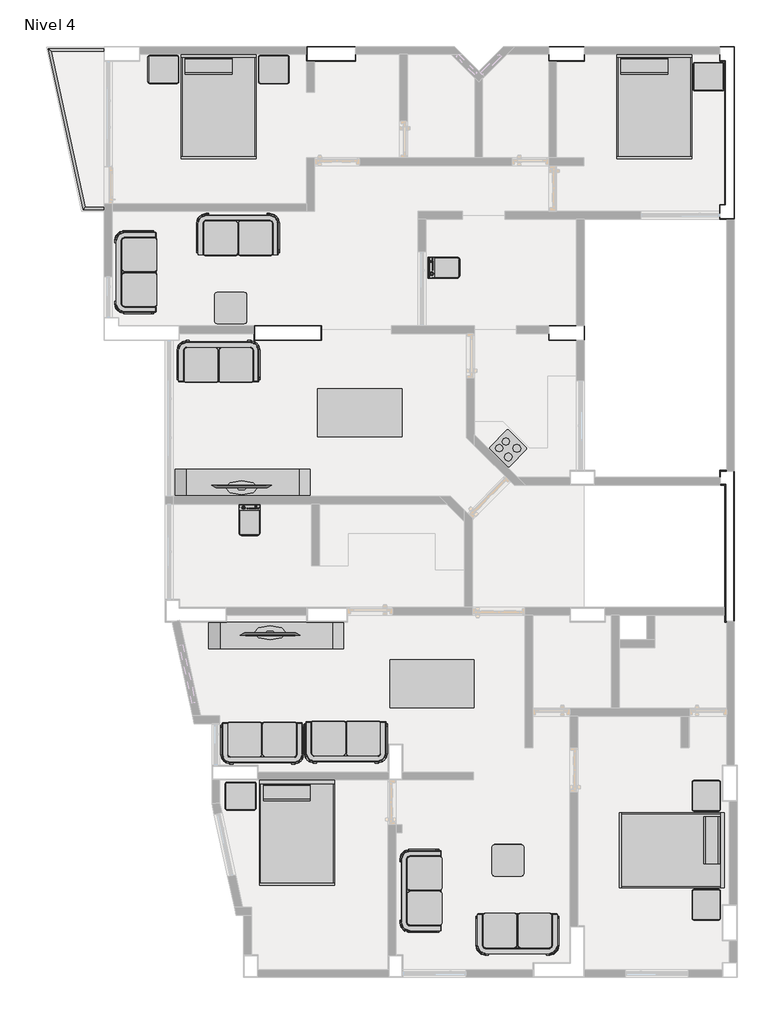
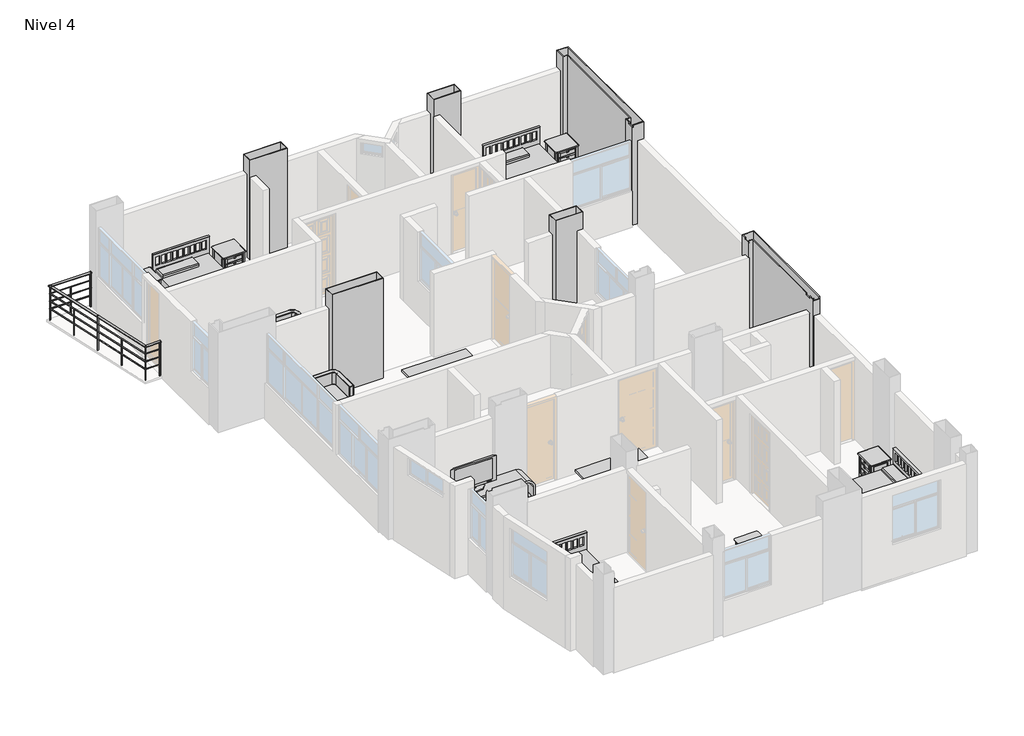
# One storey, part 4 of 4: 23 furniture elements, 6 columns, 5 proxies, 1 railing.
"""IFC4 building model written with IfcOpenShell, lengths in millimetres."""

from ifc_helpers import new_model, si_unit, point, frame, frame_2d, origin, place, context, project, spatial, circle_curve, ellipse_curve, trimmed, segment, composite_curve, outline, extrude, faceted_brep, transform, mapped, element, save
from ifc_brep_helpers import plane_surface, cylinder_surface, advanced_brep
from components import specialty_equipment_2e13d9fc, proxy_400mm_x_600mm_x_850mm_a42225af, proxy_42_inch_plasma_tv_11107_42_inch_plasma_tv_11107_394337c5, furniture_18450899, furniture_bfac4297, furniture_1422_x_1981_mm_doble_c85bece8, furniture_160_x_80_cm_madera_claro_7cd3064c, furniture_600mm_x_600mm_a769e95e, bed_side_table_9129_bed_side_table_9129_b31ec6e2, bed_side_table_9129_bed_side_table_9129_c77a05bd, tv_room_furn_4056_tv_room_furn_4056_870fe8c4

model = new_model("IFC4")

# Units and contexts
model_context = context("Model", 3, world=origin())
ifc_project = project(units=[si_unit("LENGTHUNIT", "METRE", prefix="MILLI")], contexts=[model_context])

# Site, building, storey
site = spatial("IfcSite", under=ifc_project)
building = spatial("IfcBuilding", under=site)
storey = spatial("IfcBuildingStorey", under=building, Name="Nivel 4", Elevation=8100.0)

# Proxies
placement = place(None, origin())
specialty_equipment_shape = specialty_equipment_2e13d9fc(model_context)
element("IfcBuildingElementProxy", 1, Name="Electric Hob : Electric Hob", ObjectType="Electric Hob : Electric Hob", at=placement, inside=storey, context=model_context, shape_type="MappedRepresentation", body=[
    mapped(specialty_equipment_shape, transform((5026.7577455, 10021.1807466, 8900.0), x_axis=(-0.7121213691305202, 0.7020563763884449, 0.0), y_axis=(-0.7020563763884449, -0.7121213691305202, 0.0), z_axis=(0.0, 0.0, 1.0))),
])
proxy_400mm_x_600mm_x_850mm_shape = proxy_400mm_x_600mm_x_850mm_a42225af(model_context)
element("IfcBuildingElementProxy", 2, Name="Lave linge - Chargement par le dessus : 400mm x 600mm x 850mm", ObjectType="Lave linge - Chargement par le dessus : 400mm x 600mm x 850mm", at=placement, inside=storey, context=model_context, shape_type="MappedRepresentation", body=[
    mapped(proxy_400mm_x_600mm_x_850mm_shape, transform((3933.8207986, 13503.4949484, 8100.0), x_axis=(0.0, 1.0, 0.0), y_axis=(-1.0, 0.0, 0.0), z_axis=(0.0, 0.0, 1.0))),
])
element("IfcBuildingElementProxy", 3, Name="Lave linge - Chargement par le dessus : 400mm x 600mm x 850mm", ObjectType="Lave linge - Chargement par le dessus : 400mm x 600mm x 850mm", at=placement, inside=storey, context=model_context, shape_type="MappedRepresentation", body=[
    mapped(proxy_400mm_x_600mm_x_850mm_shape, transform((138.4955292, 8536.1797822, 8100.0), x_axis=(1.0, 0.0, 0.0), y_axis=(0.0, 1.0, 0.0), z_axis=(0.0, 0.0, 1.0))),
])
proxy_42_inch_plasma_tv_11107_42_inch_plasma_tv_11107_shape = proxy_42_inch_plasma_tv_11107_42_inch_plasma_tv_11107_394337c5(model_context)
element("IfcBuildingElementProxy", 4, Name="42_inch_plasma_tv_11107 : 42_inch_plasma_tv_11107", ObjectType="42_inch_plasma_tv_11107 : 42_inch_plasma_tv_11107", at=placement, inside=storey, context=model_context, shape_type="MappedRepresentation", body=[
    mapped(proxy_42_inch_plasma_tv_11107_42_inch_plasma_tv_11107_shape, transform((-49.9994192, 9335.0, 8950.0), x_axis=(-1.0, 0.0, 0.0), y_axis=(0.0, -1.0, 0.0), z_axis=(0.0, 0.0, 1.0))),
])
element("IfcBuildingElementProxy", 5, Name="42_inch_plasma_tv_11107 : 42_inch_plasma_tv_11107", ObjectType="42_inch_plasma_tv_11107 : 42_inch_plasma_tv_11107", at=placement, inside=storey, context=model_context, shape_type="MappedRepresentation", body=[
    mapped(proxy_42_inch_plasma_tv_11107_42_inch_plasma_tv_11107_shape, transform((490.0005808, 6480.0, 8950.0), x_axis=(1.0, 0.0, 0.0), y_axis=(0.0, 1.0, 0.0), z_axis=(0.0, 0.0, 1.0))),
])

# Columns
element("IfcColumn", 6, ObjectType="Columna U Arquitectonica : Columna U Arquitectonica", at=placement, inside=storey, context=model_context, shape_type="Brep", body=[
    faceted_brep([(9035.0, 14665.0, 8100.0), (9135.0, 14665.0, 8100.0), (9135.0, 17385.0, 8100.0), (9035.0, 17385.0, 8100.0), (9035.0, 17665.0, 8100.0), (9315.0, 17665.0, 8100.0), (9315.0, 14385.0, 8100.0), (9035.0, 14385.0, 8100.0), (9050.0, 14650.0, 8100.0), (9050.0, 14400.0, 8100.0), (9300.0, 14400.0, 8100.0), (9300.0, 17650.0, 8100.0), (9050.0, 17650.0, 8100.0), (9050.0, 17400.0, 8100.0), (9150.0, 17400.0, 8100.0), (9150.0, 14650.0, 8100.0), (9150.0, 14650.0, 10750.0), (9050.0, 14650.0, 10750.0), (9150.0, 17400.0, 10750.0), (9050.0, 17400.0, 10750.0), (9050.0, 17650.0, 10750.0), (9300.0, 17650.0, 10750.0), (9300.0, 14400.0, 10750.0), (9050.0, 14400.0, 10700.0), (9050.0, 14400.0, 10750.0), (9050.0, 14535.0, 10750.0), (9050.0, 14535.0, 10700.0), (9050.0, 14385.0, 10750.0), (9315.0, 14385.0, 10750.0), (9315.0, 17665.0, 10750.0), (9035.0, 17665.0, 10750.0), (9035.0, 17385.0, 10750.0), (9135.0, 17385.0, 10750.0), (9135.0, 14665.0, 10750.0), (9035.0, 14665.0, 10750.0), (9035.0, 14535.0, 10750.0), (9035.0, 17665.0, 10700.0), (9035.0, 17665.0, 10300.0), (9315.0, 14385.0, 10300.0), (9050.0, 14385.0, 10700.0), (9035.0, 14385.0, 10700.0), (9035.0, 14385.0, 9000.0), (9035.0, 14535.0, 10700.0)], [[[0, 1, 2, 3, 4, 5, 6, 7], [8, 9, 10, 11, 12, 13, 14, 15]], [[8, 15, 16, 17]], [[15, 14, 18, 16]], [[14, 13, 19, 18]], [[13, 12, 20, 19]], [[12, 11, 21, 20]], [[11, 10, 22, 21]], [[10, 9, 23, 24, 22]], [[9, 8, 17, 25, 26, 23]], [[17, 16, 18, 19, 20, 21, 22, 24, 27, 28, 29, 30, 31, 32, 33, 34, 35, 25]], [[1, 0, 34, 33]], [[2, 1, 33, 32]], [[3, 2, 32, 31]], [[4, 3, 31, 30, 36, 37]], [[5, 4, 37, 36, 30, 29]], [[6, 5, 29, 28, 38]], [[7, 6, 38, 28, 27, 39, 40, 41]], [[0, 7, 41, 40, 42, 35, 34]], [[42, 26, 25, 35]], [[39, 23, 26, 42, 40]], [[23, 39, 27, 24]]]),
])
element("IfcColumn", 7, ObjectType="Columna L Arquitectonica : ACO_L 25x285x25x15 cm", at=placement, inside=storey, context=model_context, shape_type="Brep", body=[
    faceted_brep([(9165.0, 9600.0, 8100.0), (9050.0, 9600.0, 8100.0), (9050.0, 9485.0, 8100.0), (9035.0, 9485.0, 8100.0), (9035.0, 9615.0, 8100.0), (9165.0, 9615.0, 8100.0), (9150.0, 6750.0, 8100.0), (9150.0, 6750.0, 10750.0), (9165.0, 6750.0, 10750.0), (9165.0, 6750.0, 10700.0), (9300.0, 6750.0, 10700.0), (9300.0, 6750.0, 10300.0), (9165.0, 6750.0, 10300.0), (9165.0, 6750.0, 8100.0), (9300.0, 9600.0, 8100.0), (9300.0, 6750.0, 8100.0), (9300.0, 6750.0, 10750.0), (9300.0, 9600.0, 10750.0), (9300.0, 9600.0, 10300.0), (9050.0, 9600.0, 10750.0), (9165.0, 9600.0, 10300.0), (9050.0, 9485.0, 10750.0), (9050.0, 9485.0, 10700.0), (9050.0, 9350.0, 10700.0), (9050.0, 9350.0, 10300.0), (9050.0, 9485.0, 10300.0), (9150.0, 9350.0, 8100.0), (9050.0, 9350.0, 8100.0), (9050.0, 9350.0, 10750.0), (9150.0, 9350.0, 10750.0), (9150.0, 7015.0, 10750.0), (9150.0, 7015.0, 10700.0), (9150.0, 6865.0, 10700.0), (9150.0, 6865.0, 10750.0), (9135.0, 9335.0, 10750.0), (9135.0, 9335.0, 8100.0), (9135.0, 7015.0, 8100.0), (9135.0, 6865.0, 8100.0), (9135.0, 6735.0, 8100.0), (9135.0, 6735.0, 10750.0), (9135.0, 6865.0, 10750.0), (9135.0, 6865.0, 10700.0), (9135.0, 7015.0, 10700.0), (9135.0, 7015.0, 10750.0), (9050.0, 9335.0, 10750.0), (9050.0, 9335.0, 10700.0), (9035.0, 9335.0, 10700.0), (9035.0, 9335.0, 10300.0), (9050.0, 9335.0, 10300.0), (9050.0, 9335.0, 8100.0), (9035.0, 9615.0, 10750.0), (9035.0, 9485.0, 10300.0), (9035.0, 9485.0, 10700.0), (9035.0, 9485.0, 10750.0), (9315.0, 9615.0, 10750.0), (9315.0, 9615.0, 10300.0), (9165.0, 9615.0, 10300.0), (9315.0, 6750.0, 10750.0), (9315.0, 6750.0, 10700.0), (9315.0, 6735.0, 10700.0), (9315.0, 6735.0, 10300.0), (9315.0, 6750.0, 10300.0), (9315.0, 6750.0, 8100.0), (9315.0, 9600.0, 8100.0), (9315.0, 9600.0, 10300.0), (9165.0, 6735.0, 8100.0), (9165.0, 6735.0, 10300.0), (9165.0, 6735.0, 10700.0), (9165.0, 6735.0, 10750.0)], [[[0, 1, 2, 3, 4, 5]], [[6, 7, 8, 9, 10, 11, 12, 13]], [[14, 15, 11, 10, 16, 17, 18]], [[17, 19, 1, 0, 20, 18]], [[1, 19, 21, 22, 23, 24, 25, 2]], [[26, 27, 24, 23, 28, 29]], [[6, 26, 29, 30, 31, 32, 33, 7]], [[34, 35, 36, 37, 38, 39, 40, 41, 42, 43]], [[35, 34, 44, 45, 46, 47, 48, 49]], [[50, 4, 3, 51, 47, 46, 52, 53]], [[4, 50, 54, 55, 56, 5]], [[55, 54, 57, 58, 59, 60, 61, 62, 63, 64]], [[39, 38, 65, 66, 60, 59, 67, 68]], [[40, 39, 68, 8, 7, 33]], [[56, 20, 0, 5]], [[18, 64, 63, 14]], [[64, 18, 20, 56, 55]], [[12, 66, 65, 13]], [[11, 61, 60, 66, 12]], [[61, 11, 15, 62]], [[15, 14, 63, 62]], [[25, 51, 3, 2]], [[48, 24, 27, 49]], [[24, 48, 47, 51, 25]], [[27, 26, 6, 13, 65, 38, 37, 36, 35, 49]], [[41, 40, 33, 32]], [[43, 42, 31, 30]], [[42, 41, 32, 31]], [[67, 9, 8, 68]], [[58, 10, 9, 67, 59]], [[10, 58, 57, 16]], [[17, 16, 57, 54, 50, 53, 21, 19]], [[52, 22, 21, 53]], [[45, 23, 22, 52, 46]], [[23, 45, 44, 28]], [[29, 28, 44, 34, 43, 30]]]),
])
element("IfcColumn", 8, ObjectType="Columna Rectangular Arquitectonica : ACO_Rectangular 25x125 cm", at=placement, inside=storey, context=model_context, shape_type="Brep", body=[
    faceted_brep([(185.0, 12365.0, 8100.0), (1465.0, 12365.0, 8100.0), (1465.0, 12085.0, 8100.0), (185.0, 12085.0, 8100.0), (200.0, 12350.0, 8100.0), (200.0, 12100.0, 8100.0), (1450.0, 12100.0, 8100.0), (1450.0, 12350.0, 8100.0), (200.0, 12350.0, 10750.0), (200.0, 12100.0, 10750.0), (1450.0, 12100.0, 10750.0), (1450.0, 12350.0, 10750.0), (185.0, 12365.0, 10750.0), (1465.0, 12365.0, 10750.0), (1465.0, 12365.0, 10700.0), (185.0, 12365.0, 10300.0), (185.0, 12365.0, 10700.0), (1465.0, 12085.0, 10750.0), (185.0, 12085.0, 10750.0)], [[[0, 1, 2, 3], [4, 5, 6, 7]], [[8, 9, 5, 4]], [[9, 10, 6, 5]], [[10, 11, 7, 6]], [[11, 8, 4, 7]], [[12, 13, 14, 1, 0, 15, 16]], [[13, 17, 2, 1, 14]], [[17, 18, 3, 2]], [[18, 12, 16, 15, 0, 3]], [[12, 18, 17, 13], [8, 11, 10, 9]]]),
])
element("IfcColumn", 9, ObjectType="Columna Rectangular Arquitectonica : ACO_Rectangular 25x65 cm", at=placement, inside=storey, context=model_context, shape_type="Brep", body=[
    faceted_brep([(5785.0, 17665.0, 8100.0), (6465.0, 17665.0, 8100.0), (6465.0, 17385.0, 8100.0), (5785.0, 17385.0, 8100.0), (5800.0, 17650.0, 8100.0), (5800.0, 17400.0, 8100.0), (6450.0, 17400.0, 8100.0), (6450.0, 17650.0, 8100.0), (5800.0, 17650.0, 10750.0), (5800.0, 17400.0, 10750.0), (6450.0, 17400.0, 10750.0), (6450.0, 17650.0, 10750.0), (5785.0, 17665.0, 10750.0), (6465.0, 17665.0, 10750.0), (6465.0, 17665.0, 10700.0), (6465.0, 17665.0, 10300.0), (5785.0, 17665.0, 10300.0), (5785.0, 17665.0, 10700.0), (6465.0, 17385.0, 10750.0), (5785.0, 17385.0, 10750.0), (5785.0, 17385.0, 10700.0), (5785.0, 17385.0, 10300.0)], [[[0, 1, 2, 3], [4, 5, 6, 7]], [[8, 9, 5, 4]], [[9, 10, 6, 5]], [[10, 11, 7, 6]], [[11, 8, 4, 7]], [[12, 13, 14, 15, 1, 0, 16, 17]], [[13, 18, 2, 1, 15, 14]], [[18, 19, 20, 21, 3, 2]], [[19, 12, 17, 16, 0, 3, 21, 20]], [[12, 19, 18, 13], [8, 11, 10, 9]]]),
])
element("IfcColumn", 10, ObjectType="Columna Rectangular Arquitectonica : ACO_Rectangular 25x65 cm", at=placement, inside=storey, context=model_context, shape_type="Brep", body=[
    faceted_brep([(5785.0, 12365.0, 8100.0), (6465.0, 12365.0, 8100.0), (6465.0, 12085.0, 8100.0), (5785.0, 12085.0, 8100.0), (5800.0, 12350.0, 8100.0), (5800.0, 12100.0, 8100.0), (6450.0, 12100.0, 8100.0), (6450.0, 12350.0, 8100.0), (5800.0, 12350.0, 10750.0), (5800.0, 12100.0, 10750.0), (6450.0, 12100.0, 10750.0), (6450.0, 12350.0, 10750.0), (5785.0, 12365.0, 10750.0), (6465.0, 12365.0, 10750.0), (6465.0, 12365.0, 10700.0), (6465.0, 12365.0, 10300.0), (5785.0, 12365.0, 10300.0), (5785.0, 12365.0, 10700.0), (6465.0, 12085.0, 10750.0), (6465.0, 12085.0, 10700.0), (6465.0, 12085.0, 10300.0), (5785.0, 12085.0, 10750.0)], [[[0, 1, 2, 3], [4, 5, 6, 7]], [[8, 9, 5, 4]], [[9, 10, 6, 5]], [[10, 11, 7, 6]], [[11, 8, 4, 7]], [[12, 13, 14, 15, 1, 0, 16, 17]], [[13, 18, 19, 20, 2, 1, 15, 14]], [[18, 21, 3, 2, 20, 19]], [[21, 12, 17, 16, 0, 3]], [[12, 21, 18, 13], [8, 11, 10, 9]]]),
])
element("IfcColumn", 11, ObjectType="Columna Rectangular Arquitectonica : ACO_Rectangular 25x90 cm", at=placement, inside=storey, context=model_context, shape_type="Brep", body=[
    faceted_brep([(1185.0, 17665.0, 8100.0), (2115.0, 17665.0, 8100.0), (2115.0, 17385.0, 8100.0), (1185.0, 17385.0, 8100.0), (1200.0, 17650.0, 8100.0), (1200.0, 17400.0, 8100.0), (2100.0, 17400.0, 8100.0), (2100.0, 17650.0, 8100.0), (1200.0, 17650.0, 10750.0), (1200.0, 17400.0, 10750.0), (2100.0, 17400.0, 10750.0), (2100.0, 17650.0, 10750.0), (1185.0, 17665.0, 10750.0), (2115.0, 17665.0, 10750.0), (2115.0, 17665.0, 10700.0), (2115.0, 17665.0, 10300.0), (1185.0, 17665.0, 10300.0), (1185.0, 17665.0, 10700.0), (2115.0, 17385.0, 10750.0), (1185.0, 17385.0, 10750.0), (1185.0, 17385.0, 10300.0)], [[[0, 1, 2, 3], [4, 5, 6, 7]], [[8, 9, 5, 4]], [[9, 10, 6, 5]], [[10, 11, 7, 6]], [[11, 8, 4, 7]], [[12, 13, 14, 15, 1, 0, 16, 17]], [[13, 18, 2, 1, 15, 14]], [[18, 19, 20, 3, 2]], [[19, 12, 17, 16, 0, 3, 20]], [[12, 19, 18, 13], [8, 11, 10, 9]]]),
])

# Furniture
furniture_shape = furniture_18450899(model_context)
furniture_2_shape = furniture_bfac4297(model_context)
element("IfcFurniture", 12, ObjectType="00304 - Haworth - Castelli - Jul 13 - Ver - 4 - M_Sit (SLMS-FD02-8P) : Settee_SLMS-FD-02", at=placement, inside=storey, context=model_context, shape_type="MappedRepresentation", body=[
    mapped(furniture_shape, transform((-528.0530561, 11371.2276294, 8100.0), x_axis=(1.0, 0.0, 0.0), y_axis=(0.0, 1.0, 0.0), z_axis=(0.0, 0.0, 1.0))),
    mapped(furniture_2_shape, transform((-528.0530561, 11371.2276294, 8100.0), x_axis=(1.0, 0.0, 0.0), y_axis=(0.0, 1.0, 0.0), z_axis=(0.0, 0.0, 1.0))),
])
element("IfcFurniture", 13, ObjectType="00304 - Haworth - Castelli - Jul 13 - Ver - 4 - M_Sit (SLMS-FD02-8P) : Settee_SLMS-FD-02", at=placement, inside=storey, context=model_context, shape_type="MappedRepresentation", body=[
    mapped(furniture_shape, transform((-1751.2276294, 13341.9463631, 8100.0), x_axis=(0.0, 1.0, 0.0), y_axis=(-1.0, 0.0, 0.0), z_axis=(0.0, 0.0, 1.0))),
    mapped(furniture_2_shape, transform((-1751.2276294, 13341.9463631, 8100.0), x_axis=(0.0, 1.0, 0.0), y_axis=(-1.0, 0.0, 0.0), z_axis=(0.0, 0.0, 1.0))),
])
element("IfcFurniture", 14, ObjectType="00304 - Haworth - Castelli - Jul 13 - Ver - 4 - M_Sit (SLMS-FD02-8P) : Settee_SLMS-FD-02", at=placement, inside=storey, context=model_context, shape_type="MappedRepresentation", body=[
    mapped(furniture_shape, transform((-158.0536369, 13781.2276294, 8100.0), x_axis=(1.0, 0.0, 0.0), y_axis=(0.0, 1.0, 0.0), z_axis=(0.0, 0.0, 1.0))),
    mapped(furniture_2_shape, transform((-158.0536369, 13781.2276294, 8100.0), x_axis=(1.0, 0.0, 0.0), y_axis=(0.0, 1.0, 0.0), z_axis=(0.0, 0.0, 1.0))),
])
element("IfcFurniture", 15, ObjectType="00304 - Haworth - Castelli - Jul 13 - Ver - 4 - M_Sit (SLMS-FD02-8P) : Settee_SLMS-FD-02", at=placement, inside=storey, context=model_context, shape_type="MappedRepresentation", body=[
    mapped(furniture_shape, transform((378.0536369, 4748.7723706, 8100.0), x_axis=(-1.0, 0.0, 0.0), y_axis=(0.0, -1.0, 0.0), z_axis=(0.0, 0.0, 1.0))),
    mapped(furniture_2_shape, transform((378.0536369, 4748.7723706, 8100.0), x_axis=(-1.0, 0.0, 0.0), y_axis=(0.0, -1.0, 0.0), z_axis=(0.0, 0.0, 1.0))),
])
element("IfcFurniture", 16, ObjectType="00304 - Haworth - Castelli - Jul 13 - Ver - 4 - M_Sit (SLMS-FD02-8P) : Settee_SLMS-FD-02", at=placement, inside=storey, context=model_context, shape_type="MappedRepresentation", body=[
    mapped(furniture_shape, transform((1968.0542177, 4768.7723706, 8100.0), x_axis=(-1.0, 0.0, 0.0), y_axis=(0.0, -1.0, 0.0), z_axis=(0.0, 0.0, 1.0))),
    mapped(furniture_2_shape, transform((1968.0542177, 4768.7723706, 8100.0), x_axis=(-1.0, 0.0, 0.0), y_axis=(0.0, -1.0, 0.0), z_axis=(0.0, 0.0, 1.0))),
])
element("IfcFurniture", 17, ObjectType="00304 - Haworth - Castelli - Jul 13 - Ver - 4 - M_Sit (SLMS-FD02-8P) : Settee_SLMS-FD-02", at=placement, inside=storey, context=model_context, shape_type="MappedRepresentation", body=[
    mapped(furniture_shape, transform((3668.7723706, 1591.9463631, 8100.0), x_axis=(0.0, 1.0, 0.0), y_axis=(-1.0, 0.0, 0.0), z_axis=(0.0, 0.0, 1.0))),
    mapped(furniture_2_shape, transform((3668.7723706, 1591.9463631, 8100.0), x_axis=(0.0, 1.0, 0.0), y_axis=(-1.0, 0.0, 0.0), z_axis=(0.0, 0.0, 1.0))),
])
element("IfcFurniture", 18, ObjectType="00304 - Haworth - Castelli - Jul 13 - Ver - 4 - M_Sit (SLMS-FD02-8P) : Settee_SLMS-FD-02", at=placement, inside=storey, context=model_context, shape_type="MappedRepresentation", body=[
    mapped(furniture_shape, transform((5228.0536369, 1118.7723706, 8100.0), x_axis=(-1.0, 0.0, 0.0), y_axis=(0.0, -1.0, 0.0), z_axis=(0.0, 0.0, 1.0))),
    mapped(furniture_2_shape, transform((5228.0536369, 1118.7723706, 8100.0), x_axis=(-1.0, 0.0, 0.0), y_axis=(0.0, -1.0, 0.0), z_axis=(0.0, 0.0, 1.0))),
])
furniture_1422_x_1981_mm_doble_shape = furniture_1422_x_1981_mm_doble_c85bece8(model_context)
element("IfcFurniture", 19, ObjectType="Cama-Agitador : 1422 x 1981 mm - Doble", at=placement, inside=storey, context=model_context, shape_type="MappedRepresentation", body=[
    mapped(furniture_1422_x_1981_mm_doble_shape, transform((-469.75, 17515.0, 8100.0), x_axis=(1.0, 0.0, 0.0), y_axis=(0.0, 1.0, 0.0), z_axis=(0.0, 0.0, 1.0))),
])
element("IfcFurniture", 20, ObjectType="Cama-Agitador : 1422 x 1981 mm - Doble", at=placement, inside=storey, context=model_context, shape_type="MappedRepresentation", body=[
    mapped(furniture_1422_x_1981_mm_doble_shape, transform((7810.25, 17515.0, 8100.0), x_axis=(1.0, 0.0, 0.0), y_axis=(0.0, 1.0, 0.0), z_axis=(0.0, 0.0, 1.0))),
])
element("IfcFurniture", 21, ObjectType="Cama-Agitador : 1422 x 1981 mm - Doble", at=placement, inside=storey, context=model_context, shape_type="MappedRepresentation", body=[
    mapped(furniture_1422_x_1981_mm_doble_shape, transform((1017.85, 3715.0, 8100.0), x_axis=(1.0, 0.0, 0.0), y_axis=(0.0, 1.0, 0.0), z_axis=(0.0, 0.0, 1.0))),
])
element("IfcFurniture", 22, ObjectType="Cama-Agitador : 1422 x 1981 mm - Doble", at=placement, inside=storey, context=model_context, shape_type="MappedRepresentation", body=[
    mapped(furniture_1422_x_1981_mm_doble_shape, transform((9104.2216492, 2380.95, 8100.0), x_axis=(0.0, -1.0, 0.0), y_axis=(1.0, 0.0, 0.0), z_axis=(0.0, 0.0, 1.0))),
])
furniture_160_x_80_cm_madera_claro_shape = furniture_160_x_80_cm_madera_claro_7cd3064c(model_context)
element("IfcFurniture", 23, ObjectType="Mesa Comedor 6 personas : 160 x 80 cm - Madera claro", at=placement, inside=storey, context=model_context, shape_type="MappedRepresentation", body=[
    mapped(furniture_160_x_80_cm_madera_claro_shape, transform((2179.6830368, 10670.8700593, 8100.0), x_axis=(1.0, 0.0, 0.0), y_axis=(0.0, 1.0, 0.0), z_axis=(0.0, 0.0, 1.0))),
])
element("IfcFurniture", 24, ObjectType="Mesa Comedor 6 personas : 160 x 80 cm - Madera claro", at=placement, inside=storey, context=model_context, shape_type="MappedRepresentation", body=[
    mapped(furniture_160_x_80_cm_madera_claro_shape, transform((3551.0325083, 5521.5163413, 8100.0), x_axis=(1.0, 0.0, 0.0), y_axis=(0.0, 1.0, 0.0), z_axis=(0.0, 0.0, 1.0))),
])
furniture_600mm_x_600mm_shape = furniture_600mm_x_600mm_a769e95e(model_context)
element("IfcFurniture", 25, ObjectType="Table rectangulaire - Petit : 600mm x 600mm", at=placement, inside=storey, context=model_context, shape_type="MappedRepresentation", body=[
    mapped(furniture_600mm_x_600mm_shape, transform((-289.1058232, 12730.0, 8100.0), x_axis=(1.0, 0.0, 0.0), y_axis=(0.0, 1.0, 0.0), z_axis=(0.0, 0.0, 1.0))),
])
element("IfcFurniture", 26, ObjectType="Table rectangulaire - Petit : 600mm x 600mm", at=placement, inside=storey, context=model_context, shape_type="MappedRepresentation", body=[
    mapped(furniture_600mm_x_600mm_shape, transform((4980.8941768, 2240.0, 8100.0), x_axis=(1.0, 0.0, 0.0), y_axis=(0.0, 1.0, 0.0), z_axis=(0.0, 0.0, 1.0))),
])
bed_side_table_9129_bed_side_table_9129_shape = bed_side_table_9129_bed_side_table_9129_b31ec6e2(model_context)
element("IfcFurniture", 27, ObjectType="BED_SIDE_TABLE_9129 : BED_SIDE_TABLE_9129", at=placement, inside=storey, context=model_context, shape_type="MappedRepresentation", body=[
    mapped(bed_side_table_9129_bed_side_table_9129_shape, transform((-1580.0, 17192.5292073, 8100.0), x_axis=(1.0, 0.0, 0.0), y_axis=(0.0, 1.0, 0.0), z_axis=(0.0, 0.0, 1.0))),
])
element("IfcFurniture", 28, ObjectType="BED_SIDE_TABLE_9129 : BED_SIDE_TABLE_9129", at=placement, inside=storey, context=model_context, shape_type="MappedRepresentation", body=[
    mapped(bed_side_table_9129_bed_side_table_9129_shape, transform((-110.0, 3392.5292073, 8100.0), x_axis=(1.0, 0.0, 0.0), y_axis=(0.0, 1.0, 0.0), z_axis=(0.0, 0.0, 1.0))),
])
element("IfcFurniture", 29, ObjectType="BED_SIDE_TABLE_9129 : BED_SIDE_TABLE_9129", at=placement, inside=storey, context=model_context, shape_type="MappedRepresentation", body=[
    mapped(bed_side_table_9129_bed_side_table_9129_shape, transform((8742.5292073, 3475.0, 8100.0), x_axis=(0.0, -1.0, 0.0), y_axis=(1.0, 0.0, 0.0), z_axis=(0.0, 0.0, 1.0))),
])
element("IfcFurniture", 30, ObjectType="BED_SIDE_TABLE_9129 : BED_SIDE_TABLE_9129", at=placement, inside=storey, context=model_context, shape_type="MappedRepresentation", body=[
    mapped(bed_side_table_9129_bed_side_table_9129_shape, transform((8742.5292073, 1405.0, 8100.0), x_axis=(0.0, -1.0, 0.0), y_axis=(1.0, 0.0, 0.0), z_axis=(0.0, 0.0, 1.0))),
])
bed_side_table_9129_bed_side_table_9129_2_shape = bed_side_table_9129_bed_side_table_9129_c77a05bd(model_context)
element("IfcFurniture", 31, ObjectType="BED_SIDE_TABLE_9129 : BED_SIDE_TABLE_9129", at=placement, inside=storey, context=model_context, shape_type="MappedRepresentation", body=[
    mapped(bed_side_table_9129_bed_side_table_9129_2_shape, transform((602.4, 17192.5292073, 8100.0), x_axis=(-1.0, 0.0, 0.0), y_axis=(0.0, -1.0, 0.0), z_axis=(0.0, 0.0, 1.0))),
])
element("IfcFurniture", 32, ObjectType="BED_SIDE_TABLE_9129 : BED_SIDE_TABLE_9129", at=placement, inside=storey, context=model_context, shape_type="MappedRepresentation", body=[
    mapped(bed_side_table_9129_bed_side_table_9129_2_shape, transform((8862.4, 17052.5292073, 8100.0), x_axis=(-1.0, 0.0, 0.0), y_axis=(0.0, -1.0, 0.0), z_axis=(0.0, 0.0, 1.0))),
])
tv_room_furn_4056_tv_room_furn_4056_shape = tv_room_furn_4056_tv_room_furn_4056_870fe8c4(model_context)
element("IfcFurniture", 33, ObjectType="TV_Room_Furn_4056 : TV_Room_Furn_4056", at=placement, inside=storey, context=model_context, shape_type="MappedRepresentation", body=[
    mapped(tv_room_furn_4056_tv_room_furn_4056_shape, transform((-89.9994192, 9390.0, 8100.0), x_axis=(1.0, 0.0, 0.0), y_axis=(0.0, 1.0, 0.0), z_axis=(0.0, 0.0, 1.0))),
])
element("IfcFurniture", 34, ObjectType="TV_Room_Furn_4056 : TV_Room_Furn_4056", at=placement, inside=storey, context=model_context, shape_type="MappedRepresentation", body=[
    mapped(tv_room_furn_4056_tv_room_furn_4056_shape, transform((550.0005808, 6480.0, 8100.0), x_axis=(1.0, 0.0, 0.0), y_axis=(0.0, 1.0, 0.0), z_axis=(0.0, 0.0, 1.0))),
])

# Railing
element("IfcRailing", 35, ObjectType="Montantes Horizontales", at=placement, inside=storey, context=model_context, shape_type="SolidModel", body=[
    advanced_brep(
    [(-2665.0, 17625.0, 9000.0), (-2665.0, 17575.0, 9000.0), (-3728.1109264, 17625.0, 9000.0), (-3666.1391794, 17575.0, 9000.0), (-3066.2089566, 14565.0, 9000.0), (-3025.8679928, 14615.0, 9000.0), (-2665.0, 14565.0, 9000.0), (-2665.0, 14615.0, 9000.0)],
    [
        (0, 1, circle_curve(frame((-2665.0, 17600.0, 9000.0), z_axis=(1.0, 0.0, 0.0), x_axis=(0.0, -1.0, 0.0)), 25.0)),
        (1, 0, circle_curve(frame((-2665.0, 17600.0, 9000.0), z_axis=(1.0, 0.0, 0.0), x_axis=(0.0, -1.0, 0.0)), 25.0)),
        (0, 2),
        (2, 3, ellipse_curve(frame((-3697.1250529, 17600.0, 9000.0), z_axis=(0.6279258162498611, 0.7782731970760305, 0.0), x_axis=(0.7782731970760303, -0.6279258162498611, 0.0)), 39.8136203, 25.0)),
        (3, 1),
        (3, 2, ellipse_curve(frame((-3697.1250529, 17600.0, 9000.0), z_axis=(0.6279258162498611, 0.7782731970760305, 0.0), x_axis=(0.7782731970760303, -0.6279258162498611, 0.0)), 39.8136203, 25.0)),
        (2, 4),
        (4, 5, ellipse_curve(frame((-3046.0384747, 14590.0, 9000.0), z_axis=(-0.7782731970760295, 0.6279258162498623, 0.0), x_axis=(0.6279258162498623, 0.7782731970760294, 0.0)), 32.1223962, 25.0)),
        (5, 3),
        (5, 4, ellipse_curve(frame((-3046.0384747, 14590.0, 9000.0), z_axis=(-0.7782731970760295, 0.6279258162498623, 0.0), x_axis=(0.6279258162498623, 0.7782731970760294, 0.0)), 32.1223962, 25.0)),
        (6, 7, circle_curve(frame((-2665.0, 14590.0, 9000.0), z_axis=(1.0, 0.0, 0.0), x_axis=(0.0, 1.0, 0.0)), 25.0)),
        (7, 6, circle_curve(frame((-2665.0, 14590.0, 9000.0), z_axis=(1.0, 0.0, 0.0), x_axis=(0.0, 1.0, 0.0)), 25.0)),
        (4, 6),
        (7, 5),
    ],
    [
        plane_surface(frame((-2665.0, 17600.0, 9000.0), z_axis=(1.0, 0.0, 0.0), x_axis=(0.0, -1.0, 0.0))),
        cylinder_surface(frame((-2665.0, 17600.0, 9000.0), z_axis=(1.0, 0.0, 0.0), x_axis=(0.0, -1.0, 0.0)), 25.0),
        cylinder_surface(frame((-3697.1250529, 17600.0, 9000.0), z_axis=(-0.21141833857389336, 0.9773956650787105, 0.0), x_axis=(0.9773956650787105, 0.21141833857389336, 0.0)), 25.0),
        plane_surface(frame((-2665.0, 14590.0, 9000.0), z_axis=(1.0, 0.0, 0.0), x_axis=(0.0, 1.0, 0.0))),
        cylinder_surface(frame((-3046.0384747, 14590.0, 9000.0), z_axis=(-1.0, 0.0, 0.0), x_axis=(0.0, 1.0, 0.0)), 25.0),
    ],
    [
        (0, [[1, 2]]),
        (1, [[-1, 3, 4, 5]]),
        (1, [[-2, -5, 6, -3]]),
        (2, [[-4, 7, 8, 9]]),
        (2, [[-6, -9, 10, -7]]),
        (3, [[11, 12]]),
        (4, [[-8, 13, -12, 14]]),
        (4, [[-10, -14, -11, -13]]),
    ],
),
    advanced_brep(
    [(-2665.0, 17590.0, 8800.0), (-2665.0, 17610.0, 8800.0), (-3684.7307035, 17590.0, 8800.0), (-3709.5194023, 17610.0, 8800.0), (-3037.970282, 14600.0, 8800.0), (-3054.1066675, 14580.0, 8800.0), (-2665.0, 14600.0, 8800.0), (-2665.0, 14580.0, 8800.0)],
    [
        (0, 1, circle_curve(frame((-2665.0, 17600.0, 8800.0), z_axis=(1.0, 0.0, 0.0), x_axis=(0.0, 1.0, 0.0)), 10.0)),
        (1, 0, circle_curve(frame((-2665.0, 17600.0, 8800.0), z_axis=(1.0, 0.0, 0.0), x_axis=(0.0, 1.0, 0.0)), 10.0)),
        (0, 2),
        (2, 3, ellipse_curve(frame((-3697.1250529, 17600.0, 8800.0), z_axis=(0.6279258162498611, 0.7782731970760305, 0.0), x_axis=(0.7782731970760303, -0.6279258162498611, 0.0)), 15.9254481, 10.0)),
        (3, 1),
        (3, 2, ellipse_curve(frame((-3697.1250529, 17600.0, 8800.0), z_axis=(0.6279258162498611, 0.7782731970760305, 0.0), x_axis=(0.7782731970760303, -0.6279258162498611, 0.0)), 15.9254481, 10.0)),
        (2, 4),
        (4, 5, ellipse_curve(frame((-3046.0384747, 14590.0, 8800.0), z_axis=(-0.7782731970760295, 0.6279258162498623, 0.0), x_axis=(0.6279258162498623, 0.7782731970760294, 0.0)), 12.8489585, 10.0)),
        (5, 3),
        (5, 4, ellipse_curve(frame((-3046.0384747, 14590.0, 8800.0), z_axis=(-0.7782731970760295, 0.6279258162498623, 0.0), x_axis=(0.6279258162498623, 0.7782731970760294, 0.0)), 12.8489585, 10.0)),
        (6, 7, circle_curve(frame((-2665.0, 14590.0, 8800.0), z_axis=(1.0, 0.0, 0.0), x_axis=(0.0, -1.0, 0.0)), 10.0)),
        (7, 6, circle_curve(frame((-2665.0, 14590.0, 8800.0), z_axis=(1.0, 0.0, 0.0), x_axis=(0.0, -1.0, 0.0)), 10.0)),
        (4, 6),
        (7, 5),
    ],
    [
        plane_surface(frame((-2665.0, 17600.0, 8800.0), z_axis=(1.0, 0.0, 0.0), x_axis=(0.0, -1.0, 0.0))),
        cylinder_surface(frame((-2665.0, 17600.0, 8800.0), z_axis=(1.0, 0.0, 0.0), x_axis=(0.0, 1.0, 0.0)), 10.0),
        cylinder_surface(frame((-3697.1250529, 17600.0, 8800.0), z_axis=(-0.21141833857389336, 0.9773956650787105, 0.0), x_axis=(-0.9773956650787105, -0.21141833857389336, 0.0)), 10.0),
        plane_surface(frame((-2665.0, 14590.0, 8800.0), z_axis=(1.0, 0.0, 0.0), x_axis=(0.0, 1.0, 0.0))),
        cylinder_surface(frame((-3046.0384747, 14590.0, 8800.0), z_axis=(-1.0, 0.0, 0.0), x_axis=(0.0, -1.0, 0.0)), 10.0),
    ],
    [
        (0, [[1, 2]]),
        (1, [[-1, 3, 4, 5]]),
        (1, [[-2, -5, 6, -3]]),
        (2, [[-4, 7, 8, 9]]),
        (2, [[-6, -9, 10, -7]]),
        (3, [[11, 12]]),
        (4, [[-8, 13, -12, 14]]),
        (4, [[-10, -14, -11, -13]]),
    ],
),
    advanced_brep(
    [(-2665.0, 17590.0, 8600.0), (-2665.0, 17610.0, 8600.0), (-3684.7307035, 17590.0, 8600.0), (-3709.5194023, 17610.0, 8600.0), (-3037.970282, 14600.0, 8600.0), (-3054.1066675, 14580.0, 8600.0), (-2665.0, 14600.0, 8600.0), (-2665.0, 14580.0, 8600.0)],
    [
        (0, 1, circle_curve(frame((-2665.0, 17600.0, 8600.0), z_axis=(1.0, 0.0, 0.0), x_axis=(0.0, 1.0, 0.0)), 10.0)),
        (1, 0, circle_curve(frame((-2665.0, 17600.0, 8600.0), z_axis=(1.0, 0.0, 0.0), x_axis=(0.0, 1.0, 0.0)), 10.0)),
        (0, 2),
        (2, 3, ellipse_curve(frame((-3697.1250529, 17600.0, 8600.0), z_axis=(0.6279258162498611, 0.7782731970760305, 0.0), x_axis=(0.7782731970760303, -0.6279258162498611, 0.0)), 15.9254481, 10.0)),
        (3, 1),
        (3, 2, ellipse_curve(frame((-3697.1250529, 17600.0, 8600.0), z_axis=(0.6279258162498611, 0.7782731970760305, 0.0), x_axis=(0.7782731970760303, -0.6279258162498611, 0.0)), 15.9254481, 10.0)),
        (2, 4),
        (4, 5, ellipse_curve(frame((-3046.0384747, 14590.0, 8600.0), z_axis=(-0.7782731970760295, 0.6279258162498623, 0.0), x_axis=(0.6279258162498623, 0.7782731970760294, 0.0)), 12.8489585, 10.0)),
        (5, 3),
        (5, 4, ellipse_curve(frame((-3046.0384747, 14590.0, 8600.0), z_axis=(-0.7782731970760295, 0.6279258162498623, 0.0), x_axis=(0.6279258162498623, 0.7782731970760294, 0.0)), 12.8489585, 10.0)),
        (6, 7, circle_curve(frame((-2665.0, 14590.0, 8600.0), z_axis=(1.0, 0.0, 0.0), x_axis=(0.0, -1.0, 0.0)), 10.0)),
        (7, 6, circle_curve(frame((-2665.0, 14590.0, 8600.0), z_axis=(1.0, 0.0, 0.0), x_axis=(0.0, -1.0, 0.0)), 10.0)),
        (4, 6),
        (7, 5),
    ],
    [
        plane_surface(frame((-2665.0, 17600.0, 8600.0), z_axis=(1.0, 0.0, 0.0), x_axis=(0.0, -1.0, 0.0))),
        cylinder_surface(frame((-2665.0, 17600.0, 8600.0), z_axis=(1.0, 0.0, 0.0), x_axis=(0.0, 1.0, 0.0)), 10.0),
        cylinder_surface(frame((-3697.1250529, 17600.0, 8600.0), z_axis=(-0.21141833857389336, 0.9773956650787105, 0.0), x_axis=(-0.9773956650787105, -0.21141833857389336, 0.0)), 10.0),
        plane_surface(frame((-2665.0, 14590.0, 8600.0), z_axis=(1.0, 0.0, 0.0), x_axis=(0.0, 1.0, 0.0))),
        cylinder_surface(frame((-3046.0384747, 14590.0, 8600.0), z_axis=(-1.0, 0.0, 0.0), x_axis=(0.0, -1.0, 0.0)), 10.0),
    ],
    [
        (0, [[1, 2]]),
        (1, [[-1, 3, 4, 5]]),
        (1, [[-2, -5, 6, -3]]),
        (2, [[-4, 7, 8, 9]]),
        (2, [[-6, -9, 10, -7]]),
        (3, [[11, 12]]),
        (4, [[-8, 13, -12, 14]]),
        (4, [[-10, -14, -11, -13]]),
    ],
),
    advanced_brep(
    [(-2665.0, 17590.0, 8400.0), (-2665.0, 17610.0, 8400.0), (-3684.7307035, 17590.0, 8400.0), (-3709.5194023, 17610.0, 8400.0), (-3037.970282, 14600.0, 8400.0), (-3054.1066675, 14580.0, 8400.0), (-2665.0, 14600.0, 8400.0), (-2665.0, 14580.0, 8400.0)],
    [
        (0, 1, circle_curve(frame((-2665.0, 17600.0, 8400.0), z_axis=(1.0, 0.0, 0.0), x_axis=(0.0, 1.0, 0.0)), 10.0)),
        (1, 0, circle_curve(frame((-2665.0, 17600.0, 8400.0), z_axis=(1.0, 0.0, 0.0), x_axis=(0.0, 1.0, 0.0)), 10.0)),
        (0, 2),
        (2, 3, ellipse_curve(frame((-3697.1250529, 17600.0, 8400.0), z_axis=(0.6279258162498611, 0.7782731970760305, 0.0), x_axis=(0.7782731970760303, -0.6279258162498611, 0.0)), 15.9254481, 10.0)),
        (3, 1),
        (3, 2, ellipse_curve(frame((-3697.1250529, 17600.0, 8400.0), z_axis=(0.6279258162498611, 0.7782731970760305, 0.0), x_axis=(0.7782731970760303, -0.6279258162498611, 0.0)), 15.9254481, 10.0)),
        (2, 4),
        (4, 5, ellipse_curve(frame((-3046.0384747, 14590.0, 8400.0), z_axis=(-0.7782731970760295, 0.6279258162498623, 0.0), x_axis=(0.6279258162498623, 0.7782731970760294, 0.0)), 12.8489585, 10.0)),
        (5, 3),
        (5, 4, ellipse_curve(frame((-3046.0384747, 14590.0, 8400.0), z_axis=(-0.7782731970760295, 0.6279258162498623, 0.0), x_axis=(0.6279258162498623, 0.7782731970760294, 0.0)), 12.8489585, 10.0)),
        (6, 7, circle_curve(frame((-2665.0, 14590.0, 8400.0), z_axis=(1.0, 0.0, 0.0), x_axis=(0.0, -1.0, 0.0)), 10.0)),
        (7, 6, circle_curve(frame((-2665.0, 14590.0, 8400.0), z_axis=(1.0, 0.0, 0.0), x_axis=(0.0, -1.0, 0.0)), 10.0)),
        (4, 6),
        (7, 5),
    ],
    [
        plane_surface(frame((-2665.0, 17600.0, 8400.0), z_axis=(1.0, 0.0, 0.0), x_axis=(0.0, -1.0, 0.0))),
        cylinder_surface(frame((-2665.0, 17600.0, 8400.0), z_axis=(1.0, 0.0, 0.0), x_axis=(0.0, 1.0, 0.0)), 10.0),
        cylinder_surface(frame((-3697.1250529, 17600.0, 8400.0), z_axis=(-0.21141833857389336, 0.9773956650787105, 0.0), x_axis=(-0.9773956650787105, -0.21141833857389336, 0.0)), 10.0),
        plane_surface(frame((-2665.0, 14590.0, 8400.0), z_axis=(1.0, 0.0, 0.0), x_axis=(0.0, 1.0, 0.0))),
        cylinder_surface(frame((-3046.0384747, 14590.0, 8400.0), z_axis=(-1.0, 0.0, 0.0), x_axis=(0.0, -1.0, 0.0)), 10.0),
    ],
    [
        (0, [[1, 2]]),
        (1, [[-1, 3, 4, 5]]),
        (1, [[-2, -5, 6, -3]]),
        (2, [[-4, 7, 8, 9]]),
        (2, [[-6, -9, 10, -7]]),
        (3, [[11, 12]]),
        (4, [[-8, 13, -12, 14]]),
        (4, [[-10, -14, -11, -13]]),
    ],
),
    extrude(outline(composite_curve([segment(trimmed(circle_curve(frame_2d((-3208.8101193, 15342.5)), 10.0), [point((-3199.0361626, 15344.6141834))], [point((-3218.5840759, 15340.3858166))], False, "CARTESIAN"), True, "CONTINUOUS"), segment(trimmed(circle_curve(frame_2d((-3208.8101193, 15342.5)), 10.0), [point((-3218.5840759, 15340.3858166))], [point((-3199.0361626, 15344.6141834))], False, "CARTESIAN"), True, "CONTINUOUS")], self_intersect=False)), frame((0.0, 0.0, 8100.0), z_axis=(0.0, 0.0, 1.0), x_axis=(1.0, 0.0, 0.0)), (0.0, 0.0, 1.0), 690.0),
    extrude(outline(composite_curve([segment(trimmed(circle_curve(frame_2d((-3371.5817638, 16095.0)), 15.0), [point((-3356.9208288, 16098.1712751))], [point((-3386.2426988, 16091.8287249))], False, "CARTESIAN"), True, "CONTINUOUS"), segment(trimmed(circle_curve(frame_2d((-3371.5817638, 16095.0)), 15.0), [point((-3386.2426988, 16091.8287249))], [point((-3356.9208288, 16098.1712751))], False, "CARTESIAN"), True, "CONTINUOUS")], self_intersect=False)), frame((0.0, 0.0, 8100.0), z_axis=(0.0, 0.0, 1.0), x_axis=(1.0, 0.0, 0.0)), (0.0, 0.0, 1.0), 920.0),
    extrude(outline(composite_curve([segment(trimmed(circle_curve(frame_2d((-3534.3534083, 16847.5)), 10.0), [point((-3524.5794517, 16849.6141834))], [point((-3544.127365, 16845.3858166))], False, "CARTESIAN"), True, "CONTINUOUS"), segment(trimmed(circle_curve(frame_2d((-3534.3534083, 16847.5)), 10.0), [point((-3544.127365, 16845.3858166))], [point((-3524.5794517, 16849.6141834))], False, "CARTESIAN"), True, "CONTINUOUS")], self_intersect=False)), frame((0.0, 0.0, 8100.0), z_axis=(0.0, 0.0, 1.0), x_axis=(1.0, 0.0, 0.0)), (0.0, 0.0, 1.0), 690.0),
    extrude(outline(composite_curve([segment(trimmed(circle_curve(frame_2d((-3181.0625264, 17600.0)), 10.0), [point((-3181.0625264, 17590.0))], [point((-3181.0625264, 17610.0))], False, "CARTESIAN"), True, "CONTINUOUS"), segment(trimmed(circle_curve(frame_2d((-3181.0625264, 17600.0)), 10.0), [point((-3181.0625264, 17610.0))], [point((-3181.0625264, 17590.0))], False, "CARTESIAN"), True, "CONTINUOUS")], self_intersect=False)), frame((0.0, 0.0, 8100.0), z_axis=(0.0, 0.0, 1.0), x_axis=(1.0, 0.0, 0.0)), (0.0, 0.0, 1.0), 690.0),
    extrude(outline(composite_curve([segment(trimmed(circle_curve(frame_2d((-3046.0384747, 14590.0)), 10.0), [point((-3036.2645181, 14592.1141834))], [point((-3055.8124314, 14587.8858166))], False, "CARTESIAN"), True, "CONTINUOUS"), segment(trimmed(circle_curve(frame_2d((-3046.0384747, 14590.0)), 10.0), [point((-3055.8124314, 14587.8858166))], [point((-3036.2645181, 14592.1141834))], False, "CARTESIAN"), True, "CONTINUOUS")], self_intersect=False)), frame((0.0, 0.0, 8100.0), z_axis=(0.0, 0.0, 1.0), x_axis=(1.0, 0.0, 0.0)), (0.0, 0.0, 1.0), 920.0),
    extrude(outline(composite_curve([segment(trimmed(circle_curve(frame_2d((-3697.1250529, 17600.0)), 10.0), [point((-3697.1250529, 17590.0))], [point((-3697.1250529, 17610.0))], False, "CARTESIAN"), True, "CONTINUOUS"), segment(trimmed(circle_curve(frame_2d((-3697.1250529, 17600.0)), 10.0), [point((-3697.1250529, 17610.0))], [point((-3697.1250529, 17590.0))], False, "CARTESIAN"), True, "CONTINUOUS")], self_intersect=False)), frame((0.0, 0.0, 8100.0), z_axis=(0.0, 0.0, 1.0), x_axis=(1.0, 0.0, 0.0)), (0.0, 0.0, 1.0), 920.0),
    extrude(outline(composite_curve([segment(trimmed(circle_curve(frame_2d((-2685.0, 14590.0)), 15.0), [point((-2685.0, 14605.0))], [point((-2685.0, 14575.0))], False, "CARTESIAN"), True, "CONTINUOUS"), segment(trimmed(circle_curve(frame_2d((-2685.0, 14590.0)), 15.0), [point((-2685.0, 14575.0))], [point((-2685.0, 14605.0))], False, "CARTESIAN"), True, "CONTINUOUS")], self_intersect=False)), frame((0.0, 0.0, 8100.0), z_axis=(0.0, 0.0, 1.0), x_axis=(1.0, 0.0, 0.0)), (0.0, 0.0, 1.0), 920.0),
    extrude(outline(composite_curve([segment(trimmed(circle_curve(frame_2d((-2685.0, 17600.0)), 15.0), [point((-2685.0, 17585.0))], [point((-2685.0, 17615.0))], False, "CARTESIAN"), True, "CONTINUOUS"), segment(trimmed(circle_curve(frame_2d((-2685.0, 17600.0)), 15.0), [point((-2685.0, 17615.0))], [point((-2685.0, 17585.0))], False, "CARTESIAN"), True, "CONTINUOUS")], self_intersect=False)), frame((0.0, 0.0, 8100.0), z_axis=(0.0, 0.0, 1.0), x_axis=(1.0, 0.0, 0.0)), (0.0, 0.0, 1.0), 920.0),
])

save(model, "model.ifc")
